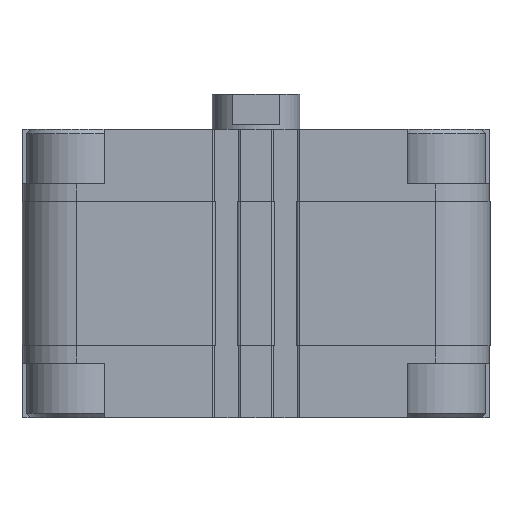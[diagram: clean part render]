
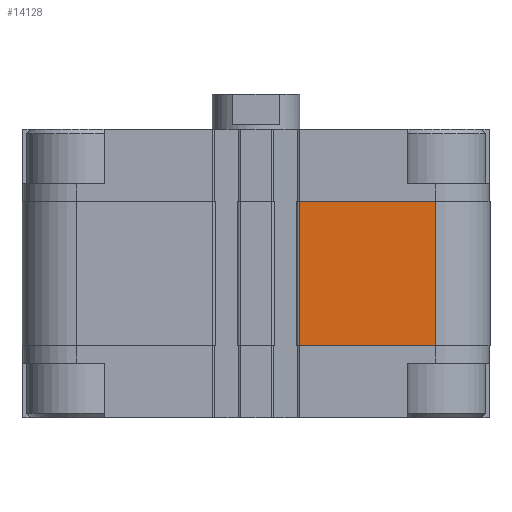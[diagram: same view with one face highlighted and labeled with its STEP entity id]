
A CAD part, front view. The second image highlights one B-rep face of the part: STEP entity #14128.
In plain terms, the highlighted planar face has unit normal (0, -1, 0).
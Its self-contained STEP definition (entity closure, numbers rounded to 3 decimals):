
#333 = DIRECTION ( 'NONE',  ( 1., 0., 0. ) ) ;
#840 = LINE ( 'NONE', #12220, #12384 ) ;
#1292 = FACE_OUTER_BOUND ( 'NONE', #5173, .T. ) ;
#1394 = CARTESIAN_POINT ( 'NONE',  ( 9.95, -53.5, -49.5 ) ) ;
#1693 = VECTOR ( 'NONE', #13797, 1000. ) ;
#2040 = EDGE_CURVE ( 'NONE', #13046, #13875, #3381, .T. ) ;
#3381 = LINE ( 'NONE', #8648, #14484 ) ;
#3433 = EDGE_CURVE ( 'NONE', #11693, #13875, #8961, .T. ) ;
#3502 = CARTESIAN_POINT ( 'NONE',  ( 9.95, -53.5, -16.5 ) ) ;
#5173 = EDGE_LOOP ( 'NONE', ( #15766, #13920, #12709, #5528 ) ) ;
#5279 = CARTESIAN_POINT ( 'NONE',  ( 9.95, -53.5, -49.5 ) ) ;
#5337 = CARTESIAN_POINT ( 'NONE',  ( 41., -53.5, -49.5 ) ) ;
#5528 = ORIENTED_EDGE ( 'NONE', *, *, #3433, .T. ) ;
#6325 = DIRECTION ( 'NONE',  ( 0., 0., 1. ) ) ;
#7718 = DIRECTION ( 'NONE',  ( 0., -1., 0. ) ) ;
#7873 = CARTESIAN_POINT ( 'NONE',  ( 41., -53.5, -16.5 ) ) ;
#8015 = CARTESIAN_POINT ( 'NONE',  ( 9.95, -53.5, -49.5 ) ) ;
#8602 = EDGE_CURVE ( 'NONE', #20672, #11693, #840, .T. ) ;
#8648 = CARTESIAN_POINT ( 'NONE',  ( 9.95, -53.5, -16.5 ) ) ;
#8961 = LINE ( 'NONE', #20036, #1693 ) ;
#9158 = DIRECTION ( 'NONE',  ( 1., 0., 0. ) ) ;
#10904 = AXIS2_PLACEMENT_3D ( 'NONE', #1394, #7718, #20581 ) ;
#11304 = VECTOR ( 'NONE', #6325, 1000. ) ;
#11693 = VERTEX_POINT ( 'NONE', #5337 ) ;
#12220 = CARTESIAN_POINT ( 'NONE',  ( 9.95, -53.5, -49.5 ) ) ;
#12384 = VECTOR ( 'NONE', #9158, 1000. ) ;
#12709 = ORIENTED_EDGE ( 'NONE', *, *, #8602, .T. ) ;
#13046 = VERTEX_POINT ( 'NONE', #3502 ) ;
#13797 = DIRECTION ( 'NONE',  ( 0., 0., 1. ) ) ;
#13875 = VERTEX_POINT ( 'NONE', #7873 ) ;
#13920 = ORIENTED_EDGE ( 'NONE', *, *, #20407, .F. ) ;
#14128 = ADVANCED_FACE ( 'NONE', ( #1292 ), #18891, .T. ) ;
#14440 = LINE ( 'NONE', #8015, #11304 ) ;
#14484 = VECTOR ( 'NONE', #333, 1000. ) ;
#15766 = ORIENTED_EDGE ( 'NONE', *, *, #2040, .F. ) ;
#18891 = PLANE ( 'NONE',  #10904 ) ;
#20036 = CARTESIAN_POINT ( 'NONE',  ( 41., -53.5, -49.5 ) ) ;
#20407 = EDGE_CURVE ( 'NONE', #20672, #13046, #14440, .T. ) ;
#20581 = DIRECTION ( 'NONE',  ( -1., 0., 0. ) ) ;
#20672 = VERTEX_POINT ( 'NONE', #5279 ) ;
